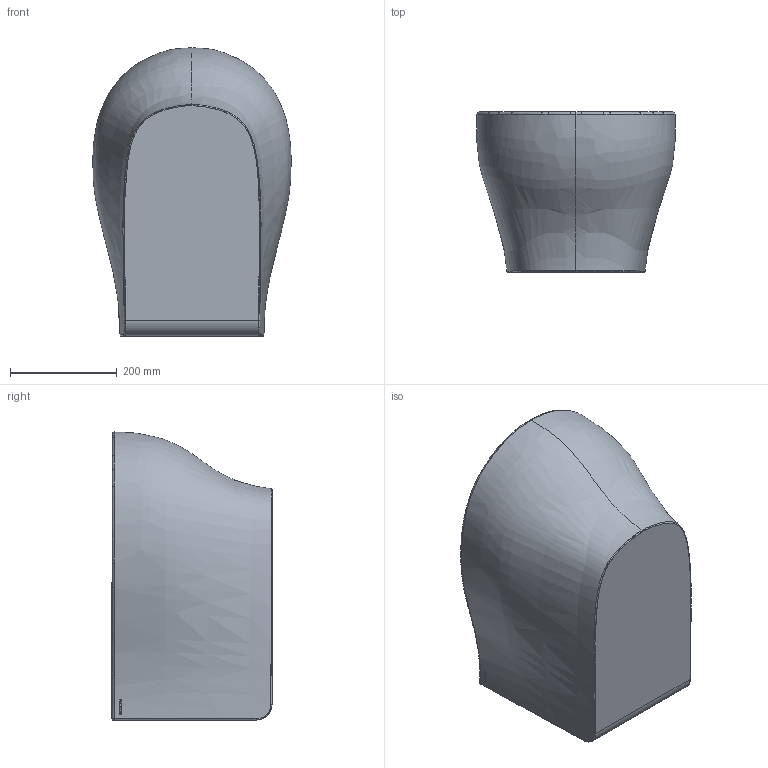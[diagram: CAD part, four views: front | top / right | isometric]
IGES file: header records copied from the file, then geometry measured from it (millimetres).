
Start section: SolidWorks IGES file using NURBS representation for surfaces
Global section: file name: D:\JÚLIO\#1# PRODUTOS\SÉRIES\139_Sanproject suspensa\139450 - bidé suspenso\biblioteca 3D\139450_igs.IGS; native system: SolidWorks 2018; preprocessor: SolidWorks 2018; author: Julio; date: 180726.163025; units: millimetre
Bounding box: 371.66 x 300 x 540.07 mm (x, y, z)
Surface area: 818676.4 mm2 (no closed solid volume)
Topology: 0 solids, 0 shells, 212 faces, 2650 edges, 2648 vertices
Faces by surface type: bspline 212
